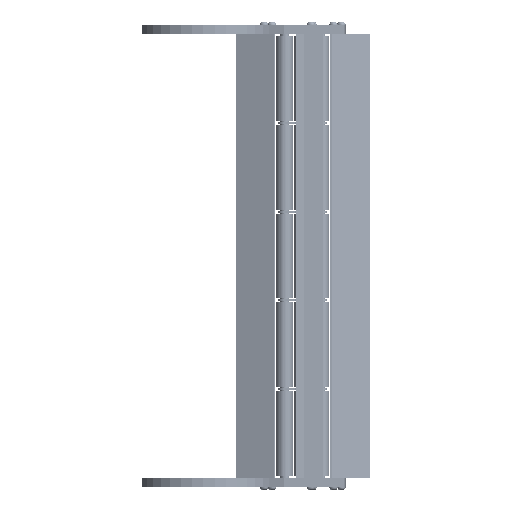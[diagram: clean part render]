
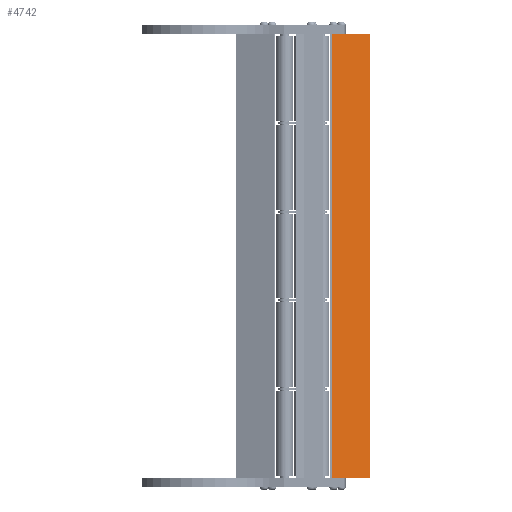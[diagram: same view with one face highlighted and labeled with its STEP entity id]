
A CAD part, front view. The second image highlights one B-rep face of the part: STEP entity #4742.
In plain terms, the highlighted planar face has unit normal (0.342, -0.94, 0).
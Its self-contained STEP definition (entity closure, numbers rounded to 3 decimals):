
#784 = VERTEX_POINT ( 'NONE', #13647 ) ;
#1376 = CARTESIAN_POINT ( 'NONE',  ( 1.655, 0., 392. ) ) ;
#1541 = ORIENTED_EDGE ( 'NONE', *, *, #17759, .F. ) ;
#1652 = DIRECTION ( 'NONE',  ( -0.342, 0.94, 0. ) ) ;
#1981 = DIRECTION ( 'NONE',  ( 0., 0., -1. ) ) ;
#2071 = CARTESIAN_POINT ( 'NONE',  ( 35., 12.137, 392. ) ) ;
#2729 = AXIS2_PLACEMENT_3D ( 'NONE', #13626, #1652, #16181 ) ;
#3367 = CARTESIAN_POINT ( 'NONE',  ( 1.655, 0., 392. ) ) ;
#4695 = VECTOR ( 'NONE', #16568, 1000. ) ;
#4742 = ADVANCED_FACE ( 'NONE', ( #12125 ), #15089, .F. ) ;
#5350 = EDGE_CURVE ( 'NONE', #784, #18716, #19057, .T. ) ;
#5685 = CARTESIAN_POINT ( 'NONE',  ( 35., 12.137, 0. ) ) ;
#7063 = CARTESIAN_POINT ( 'NONE',  ( 35., 12.137, 0. ) ) ;
#7404 = CARTESIAN_POINT ( 'NONE',  ( 35., 12.137, 392. ) ) ;
#7605 = LINE ( 'NONE', #1376, #4695 ) ;
#8683 = EDGE_LOOP ( 'NONE', ( #17231, #1541, #18394, #12610 ) ) ;
#9407 = DIRECTION ( 'NONE',  ( 0.94, 0.342, 0. ) ) ;
#11319 = DIRECTION ( 'NONE',  ( 0.94, 0.342, 0. ) ) ;
#11682 = CARTESIAN_POINT ( 'NONE',  ( 1.655, 0., 392. ) ) ;
#12125 = FACE_OUTER_BOUND ( 'NONE', #8683, .T. ) ;
#12554 = VERTEX_POINT ( 'NONE', #11682 ) ;
#12610 = ORIENTED_EDGE ( 'NONE', *, *, #15936, .T. ) ;
#13192 = VECTOR ( 'NONE', #1981, 1000. ) ;
#13626 = CARTESIAN_POINT ( 'NONE',  ( 35., 12.137, 392. ) ) ;
#13647 = CARTESIAN_POINT ( 'NONE',  ( 1.655, 0., 0. ) ) ;
#15089 = PLANE ( 'NONE',  #2729 ) ;
#15314 = LINE ( 'NONE', #2071, #13192 ) ;
#15932 = VERTEX_POINT ( 'NONE', #7404 ) ;
#15936 = EDGE_CURVE ( 'NONE', #12554, #784, #7605, .T. ) ;
#16181 = DIRECTION ( 'NONE',  ( -0.94, -0.342, 0. ) ) ;
#16568 = DIRECTION ( 'NONE',  ( 0., 0., -1. ) ) ;
#16630 = VECTOR ( 'NONE', #9407, 1000. ) ;
#16790 = LINE ( 'NONE', #3367, #16630 ) ;
#17231 = ORIENTED_EDGE ( 'NONE', *, *, #5350, .T. ) ;
#17758 = EDGE_CURVE ( 'NONE', #12554, #15932, #16790, .T. ) ;
#17759 = EDGE_CURVE ( 'NONE', #15932, #18716, #15314, .T. ) ;
#18394 = ORIENTED_EDGE ( 'NONE', *, *, #17758, .F. ) ;
#18716 = VERTEX_POINT ( 'NONE', #5685 ) ;
#19057 = LINE ( 'NONE', #7063, #19151 ) ;
#19151 = VECTOR ( 'NONE', #11319, 1000. ) ;
